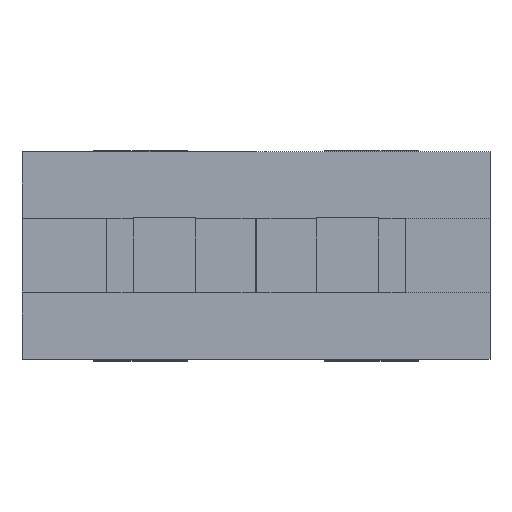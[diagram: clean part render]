
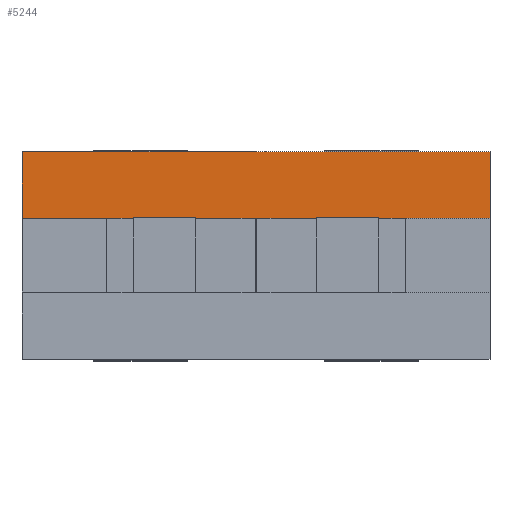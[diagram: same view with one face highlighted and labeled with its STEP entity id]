
A CAD part, top view. The second image highlights one B-rep face of the part: STEP entity #5244.
In plain terms, the highlighted planar face has unit normal (0, 0, 1).
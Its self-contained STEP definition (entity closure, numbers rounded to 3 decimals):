
#48 = LINE ( 'NONE', #4815, #4373 ) ;
#105 = DIRECTION ( 'NONE',  ( -1., 0., 0. ) ) ;
#174 = CARTESIAN_POINT ( 'NONE',  ( -37.5, 0., 77.9 ) ) ;
#270 = CARTESIAN_POINT ( 'NONE',  ( 37.5, 16.6, 77.9 ) ) ;
#313 = VERTEX_POINT ( 'NONE', #3353 ) ;
#400 = DIRECTION ( 'NONE',  ( 0., -1., 0. ) ) ;
#887 = ORIENTED_EDGE ( 'NONE', *, *, #2835, .F. ) ;
#1304 = CARTESIAN_POINT ( 'NONE',  ( 37.5, 16.6, 77.9 ) ) ;
#1335 = FACE_OUTER_BOUND ( 'NONE', #3396, .T. ) ;
#1671 = VERTEX_POINT ( 'NONE', #5178 ) ;
#1880 = EDGE_CURVE ( 'NONE', #3205, #313, #3854, .T. ) ;
#2268 = DIRECTION ( 'NONE',  ( 0., 0., -1. ) ) ;
#2577 = ORIENTED_EDGE ( 'NONE', *, *, #4483, .F. ) ;
#2711 = CARTESIAN_POINT ( 'NONE',  ( 37.5, 6., 77.9 ) ) ;
#2727 = CARTESIAN_POINT ( 'NONE',  ( 37.5, 0., 77.9 ) ) ;
#2785 = EDGE_CURVE ( 'NONE', #313, #1671, #3632, .T. ) ;
#2835 = EDGE_CURVE ( 'NONE', #3205, #3612, #3497, .T. ) ;
#2860 = ORIENTED_EDGE ( 'NONE', *, *, #2785, .T. ) ;
#2894 = DIRECTION ( 'NONE',  ( 0., -1., 0. ) ) ;
#3186 = DIRECTION ( 'NONE',  ( -1., 0., 0. ) ) ;
#3205 = VERTEX_POINT ( 'NONE', #270 ) ;
#3353 = CARTESIAN_POINT ( 'NONE',  ( -37.5, 16.6, 77.9 ) ) ;
#3396 = EDGE_LOOP ( 'NONE', ( #2577, #887, #4718, #2860 ) ) ;
#3497 = LINE ( 'NONE', #2727, #3576 ) ;
#3576 = VECTOR ( 'NONE', #2894, 1000. ) ;
#3592 = VECTOR ( 'NONE', #400, 1000. ) ;
#3612 = VERTEX_POINT ( 'NONE', #2711 ) ;
#3632 = LINE ( 'NONE', #174, #3592 ) ;
#3854 = LINE ( 'NONE', #4339, #3862 ) ;
#3862 = VECTOR ( 'NONE', #105, 1000. ) ;
#4339 = CARTESIAN_POINT ( 'NONE',  ( 37.5, 16.6, 77.9 ) ) ;
#4373 = VECTOR ( 'NONE', #5249, 1000. ) ;
#4483 = EDGE_CURVE ( 'NONE', #3612, #1671, #48, .T. ) ;
#4718 = ORIENTED_EDGE ( 'NONE', *, *, #1880, .T. ) ;
#4815 = CARTESIAN_POINT ( 'NONE',  ( 37.5, 6., 77.9 ) ) ;
#5178 = CARTESIAN_POINT ( 'NONE',  ( -37.5, 6., 77.9 ) ) ;
#5244 = ADVANCED_FACE ( 'NONE', ( #1335 ), #5496, .F. ) ;
#5249 = DIRECTION ( 'NONE',  ( -1., 0., 0. ) ) ;
#5403 = AXIS2_PLACEMENT_3D ( 'NONE', #1304, #2268, #3186 ) ;
#5496 = PLANE ( 'NONE',  #5403 ) ;
